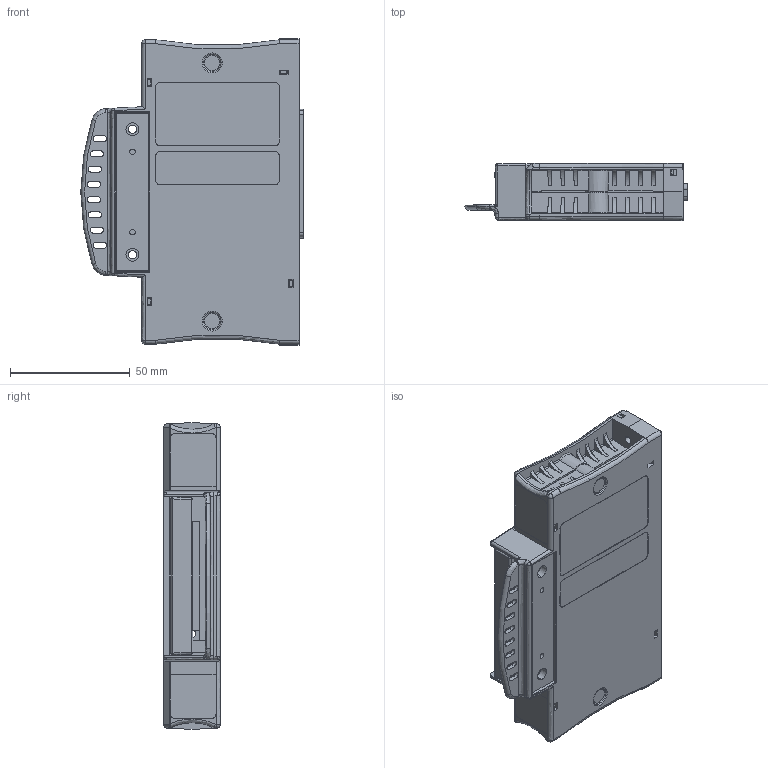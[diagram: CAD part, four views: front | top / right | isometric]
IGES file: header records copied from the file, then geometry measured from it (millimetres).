
Start section:  PTC IGES file: cfp_term_blk.igs
Global section: file name: cfp_term_blk.igs; native system: Pro/ENGINEER by Parametric Technology Corporation; preprocessor: 2006300; author: chrisj; organization: Unknown; date: 20070305.153417; units: inch
Bounding box: 92.74 x 23.62 x 127.97 mm (x, y, z)
Surface area: 65683.8 mm2 (no closed solid volume)
Topology: 0 solids, 0 shells, 2182 faces, 11566 edges, 11560 vertices
Faces by surface type: bspline 1516, revolution 666
